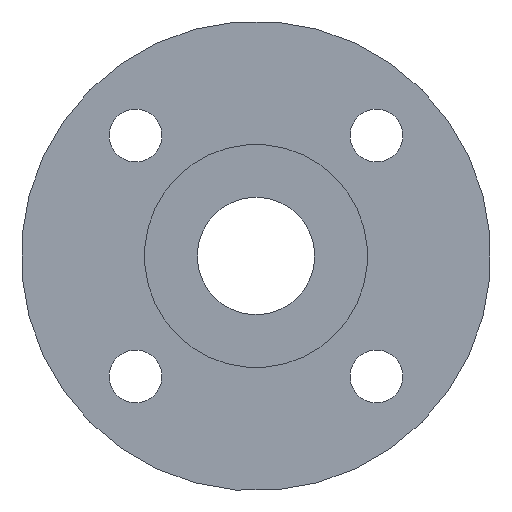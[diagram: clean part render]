
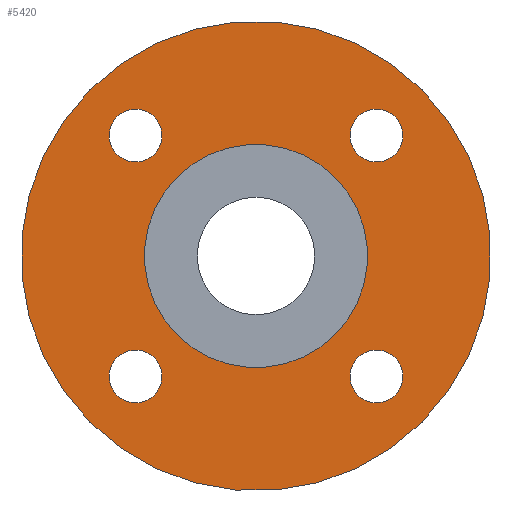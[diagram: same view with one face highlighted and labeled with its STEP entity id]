
A CAD part, left-side view. The second image highlights one B-rep face of the part: STEP entity #5420.
In plain terms, the highlighted planar face has unit normal (-1, 0, 0).
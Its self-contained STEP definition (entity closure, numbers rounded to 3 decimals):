
#112=CIRCLE('',#5766,9.5);
#114=CIRCLE('',#5771,20.);
#115=CIRCLE('',#5773,2.25);
#116=CIRCLE('',#5774,2.25);
#117=CIRCLE('',#5775,2.25);
#118=CIRCLE('',#5776,2.25);
#1648=ORIENTED_EDGE('',*,*,#3206,.T.);
#1649=ORIENTED_EDGE('',*,*,#3207,.T.);
#1650=ORIENTED_EDGE('',*,*,#3208,.T.);
#1651=ORIENTED_EDGE('',*,*,#3209,.T.);
#1652=ORIENTED_EDGE('',*,*,#3203,.F.);
#1653=ORIENTED_EDGE('',*,*,#3205,.F.);
#3203=EDGE_CURVE('',#3984,#3984,#112,.F.);
#3205=EDGE_CURVE('',#3986,#3986,#114,.T.);
#3206=EDGE_CURVE('',#3987,#3987,#115,.T.);
#3207=EDGE_CURVE('',#3988,#3988,#116,.T.);
#3208=EDGE_CURVE('',#3989,#3989,#117,.T.);
#3209=EDGE_CURVE('',#3990,#3990,#118,.T.);
#3984=VERTEX_POINT('',#8569);
#3986=VERTEX_POINT('',#8576);
#3987=VERTEX_POINT('',#8579);
#3988=VERTEX_POINT('',#8581);
#3989=VERTEX_POINT('',#8583);
#3990=VERTEX_POINT('',#8585);
#4440=EDGE_LOOP('',(#1648));
#4441=EDGE_LOOP('',(#1649));
#4442=EDGE_LOOP('',(#1650));
#4443=EDGE_LOOP('',(#1651));
#4444=EDGE_LOOP('',(#1652));
#4445=EDGE_LOOP('',(#1653));
#4833=FACE_BOUND('',#4440,.T.);
#4834=FACE_BOUND('',#4441,.T.);
#4835=FACE_BOUND('',#4442,.T.);
#4836=FACE_BOUND('',#4443,.T.);
#4837=FACE_BOUND('',#4444,.T.);
#4838=FACE_BOUND('',#4445,.T.);
#5173=PLANE('',#5772);
#5420=ADVANCED_FACE('',(#4833,#4834,#4835,#4836,#4837,#4838),#5173,.F.);
#5766=AXIS2_PLACEMENT_3D('',#8568,#6264,#6265);
#5771=AXIS2_PLACEMENT_3D('',#8575,#6274,#6275);
#5772=AXIS2_PLACEMENT_3D('',#8577,#6276,#6277);
#5773=AXIS2_PLACEMENT_3D('',#8578,#6278,#6279);
#5774=AXIS2_PLACEMENT_3D('',#8580,#6280,#6281);
#5775=AXIS2_PLACEMENT_3D('',#8582,#6282,#6283);
#5776=AXIS2_PLACEMENT_3D('',#8584,#6284,#6285);
#6264=DIRECTION('',(1.,0.,0.));
#6265=DIRECTION('',(0.,0.707,-0.707));
#6274=DIRECTION('',(1.,0.,0.));
#6275=DIRECTION('',(0.,0.707,-0.707));
#6276=DIRECTION('',(1.,0.,0.));
#6277=DIRECTION('',(0.,0.707,-0.707));
#6278=DIRECTION('',(1.,0.,0.));
#6279=DIRECTION('',(0.,0.707,-0.707));
#6280=DIRECTION('',(1.,0.,0.));
#6281=DIRECTION('',(0.,0.707,-0.707));
#6282=DIRECTION('',(1.,0.,0.));
#6283=DIRECTION('',(0.,0.707,-0.707));
#6284=DIRECTION('',(1.,0.,0.));
#6285=DIRECTION('',(0.,0.707,-0.707));
#8568=CARTESIAN_POINT('',(8.5,0.,0.));
#8569=CARTESIAN_POINT('',(8.5,6.718,-6.718));
#8575=CARTESIAN_POINT('',(8.5,0.,0.));
#8576=CARTESIAN_POINT('',(8.5,14.142,-14.142));
#8577=CARTESIAN_POINT('',(8.5,0.,0.));
#8578=CARTESIAN_POINT('',(8.5,10.253,-10.253));
#8579=CARTESIAN_POINT('',(8.5,11.844,-11.844));
#8580=CARTESIAN_POINT('',(8.5,-10.253,-10.253));
#8581=CARTESIAN_POINT('',(8.5,-8.662,-11.844));
#8582=CARTESIAN_POINT('',(8.5,-10.253,10.253));
#8583=CARTESIAN_POINT('',(8.5,-8.662,8.662));
#8584=CARTESIAN_POINT('',(8.5,10.253,10.253));
#8585=CARTESIAN_POINT('',(8.5,11.844,8.662));
